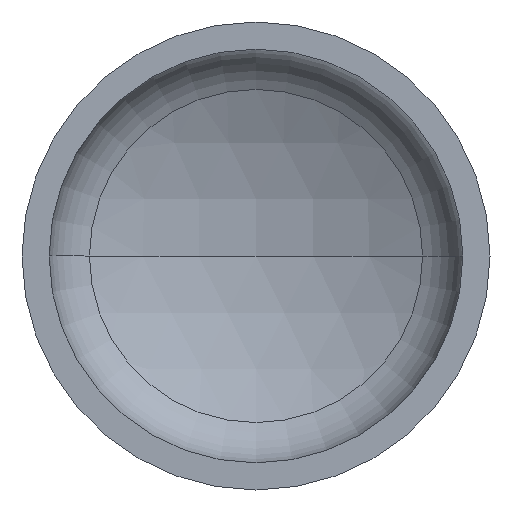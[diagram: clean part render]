
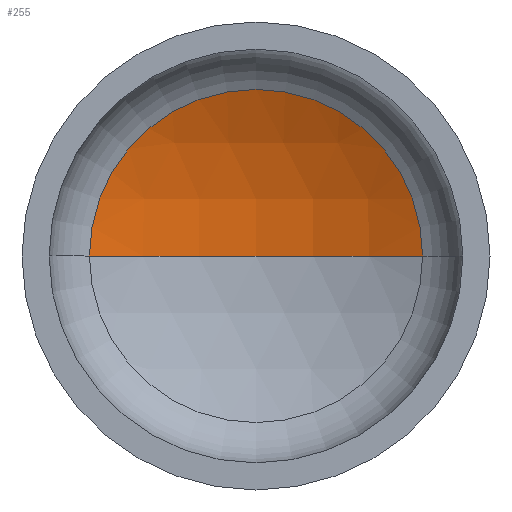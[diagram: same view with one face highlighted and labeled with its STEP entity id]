
A CAD part, front view. The second image highlights one B-rep face of the part: STEP entity #255.
In plain terms, the highlighted spherical face has radius 800 mm.
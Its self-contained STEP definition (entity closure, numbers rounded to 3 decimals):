
#12 = AXIS2_PLACEMENT_3D ( 'NONE', #134, #300, #362 ) ;
#18 = DIRECTION ( 'NONE',  ( 0., -1., 0. ) ) ;
#19 = AXIS2_PLACEMENT_3D ( 'NONE', #36, #32, #141 ) ;
#23 = CARTESIAN_POINT ( 'NONE',  ( 0., 258.81, 0. ) ) ;
#32 = DIRECTION ( 'NONE',  ( 0., 0., -1. ) ) ;
#36 = CARTESIAN_POINT ( 'NONE',  ( 0., -457.63, 0. ) ) ;
#39 = AXIS2_PLACEMENT_3D ( 'NONE', #246, #273, #107 ) ;
#42 = CIRCLE ( 'NONE', #39, 800. ) ;
#43 = AXIS2_PLACEMENT_3D ( 'NONE', #23, #18, #197 ) ;
#53 = VERTEX_POINT ( 'NONE', #268 ) ;
#86 = VERTEX_POINT ( 'NONE', #203 ) ;
#107 = DIRECTION ( 'NONE',  ( -1., 0., 0. ) ) ;
#110 = EDGE_CURVE ( 'NONE', #205, #86, #152, .T. ) ;
#111 = EDGE_CURVE ( 'NONE', #53, #205, #42, .T. ) ;
#134 = CARTESIAN_POINT ( 'NONE',  ( 0., -457.63, 0. ) ) ;
#141 = DIRECTION ( 'NONE',  ( -1., 0., 0. ) ) ;
#152 = CIRCLE ( 'NONE', #43, 355.969 ) ;
#168 = CARTESIAN_POINT ( 'NONE',  ( 355.969, 258.81, 0. ) ) ;
#194 = CIRCLE ( 'NONE', #12, 800. ) ;
#197 = DIRECTION ( 'NONE',  ( 1., 0., 0. ) ) ;
#203 = CARTESIAN_POINT ( 'NONE',  ( -355.969, 258.81, 0. ) ) ;
#205 = VERTEX_POINT ( 'NONE', #168 ) ;
#221 = ORIENTED_EDGE ( 'NONE', *, *, #111, .T. ) ;
#246 = CARTESIAN_POINT ( 'NONE',  ( 0., -457.63, 0. ) ) ;
#254 = ORIENTED_EDGE ( 'NONE', *, *, #110, .T. ) ;
#255 = ADVANCED_FACE ( 'NONE', ( #265 ), #276, .F. ) ;
#265 = FACE_OUTER_BOUND ( 'NONE', #339, .T. ) ;
#268 = CARTESIAN_POINT ( 'NONE',  ( 0., 342.37, 0. ) ) ;
#273 = DIRECTION ( 'NONE',  ( 0., 0., -1. ) ) ;
#276 = SPHERICAL_SURFACE ( 'NONE', #19, 800. ) ;
#295 = ORIENTED_EDGE ( 'NONE', *, *, #341, .F. ) ;
#300 = DIRECTION ( 'NONE',  ( 0., 0., 1. ) ) ;
#339 = EDGE_LOOP ( 'NONE', ( #295, #221, #254 ) ) ;
#341 = EDGE_CURVE ( 'NONE', #53, #86, #194, .T. ) ;
#362 = DIRECTION ( 'NONE',  ( 1., 0., 0. ) ) ;
